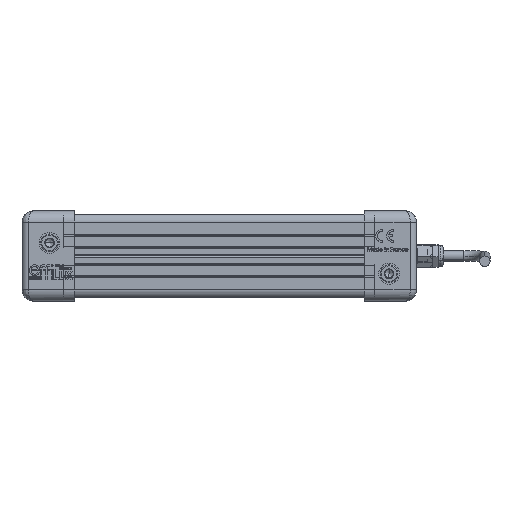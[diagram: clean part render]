
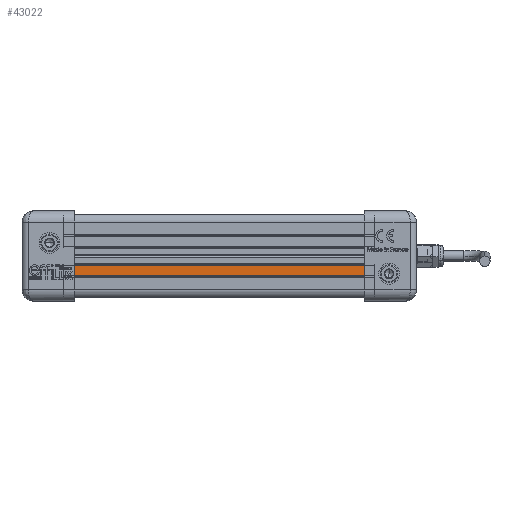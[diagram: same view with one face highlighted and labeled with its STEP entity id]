
A CAD part, front view. The second image highlights one B-rep face of the part: STEP entity #43022.
In plain terms, the highlighted planar face has unit normal (0, -1, 0) as drawn and (-1, 0, 0) by its records, which use the part's own axes.
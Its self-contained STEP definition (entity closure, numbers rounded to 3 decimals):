
#699 = DIRECTION ( 'NONE',  ( 0., 0., -1. ) ) ;
#5162 = LINE ( 'NONE', #31271, #46373 ) ;
#13333 = CARTESIAN_POINT ( 'NONE',  ( -9., -4.5, 0. ) ) ;
#15885 = CARTESIAN_POINT ( 'NONE',  ( -9., -4.5, 149. ) ) ;
#16609 = DIRECTION ( 'NONE',  ( 0., 1., 0. ) ) ;
#18090 = EDGE_CURVE ( 'NONE', #55091, #37693, #67116, .T. ) ;
#20156 = DIRECTION ( 'NONE',  ( 0., -1., 0. ) ) ;
#21487 = VECTOR ( 'NONE', #57756, 1000. ) ;
#22037 = LINE ( 'NONE', #15885, #21487 ) ;
#22487 = LINE ( 'NONE', #58180, #60677 ) ;
#24643 = ORIENTED_EDGE ( 'NONE', *, *, #56777, .F. ) ;
#24936 = FACE_OUTER_BOUND ( 'NONE', #45352, .T. ) ;
#25257 = DIRECTION ( 'NONE',  ( 1., 0., 0. ) ) ;
#27953 = VECTOR ( 'NONE', #20156, 1000. ) ;
#31271 = CARTESIAN_POINT ( 'NONE',  ( -9., -4.5, 149. ) ) ;
#33135 = DIRECTION ( 'NONE',  ( 0., 0., -1. ) ) ;
#33973 = VERTEX_POINT ( 'NONE', #48180 ) ;
#37693 = VERTEX_POINT ( 'NONE', #44353 ) ;
#39428 = VERTEX_POINT ( 'NONE', #45900 ) ;
#40116 = CARTESIAN_POINT ( 'NONE',  ( -9., -4.5, 0. ) ) ;
#43022 = ADVANCED_FACE ( 'NONE', ( #24936 ), #61596, .F. ) ;
#43861 = ORIENTED_EDGE ( 'NONE', *, *, #48788, .F. ) ;
#44353 = CARTESIAN_POINT ( 'NONE',  ( -9., -9.5, 0. ) ) ;
#45352 = EDGE_LOOP ( 'NONE', ( #49265, #24643, #43861, #50853 ) ) ;
#45900 = CARTESIAN_POINT ( 'NONE',  ( -9., -4.5, 149. ) ) ;
#46373 = VECTOR ( 'NONE', #699, 1000. ) ;
#48180 = CARTESIAN_POINT ( 'NONE',  ( -9., -9.5, 149. ) ) ;
#48788 = EDGE_CURVE ( 'NONE', #39428, #33973, #22037, .T. ) ;
#49265 = ORIENTED_EDGE ( 'NONE', *, *, #18090, .T. ) ;
#50853 = ORIENTED_EDGE ( 'NONE', *, *, #54943, .T. ) ;
#51340 = CARTESIAN_POINT ( 'NONE',  ( -9., -4.5, 149. ) ) ;
#54943 = EDGE_CURVE ( 'NONE', #39428, #55091, #5162, .T. ) ;
#55091 = VERTEX_POINT ( 'NONE', #13333 ) ;
#56777 = EDGE_CURVE ( 'NONE', #33973, #37693, #22487, .T. ) ;
#57756 = DIRECTION ( 'NONE',  ( 0., -1., 0. ) ) ;
#58180 = CARTESIAN_POINT ( 'NONE',  ( -9., -9.5, 149. ) ) ;
#60677 = VECTOR ( 'NONE', #33135, 1000. ) ;
#61596 = PLANE ( 'NONE',  #63769 ) ;
#63769 = AXIS2_PLACEMENT_3D ( 'NONE', #51340, #25257, #16609 ) ;
#67116 = LINE ( 'NONE', #40116, #27953 ) ;
